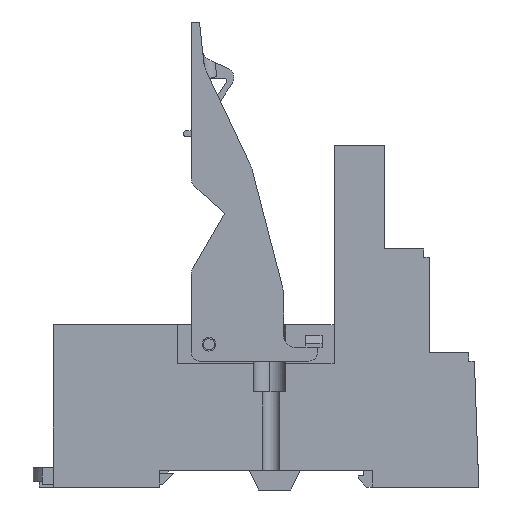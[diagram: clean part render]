
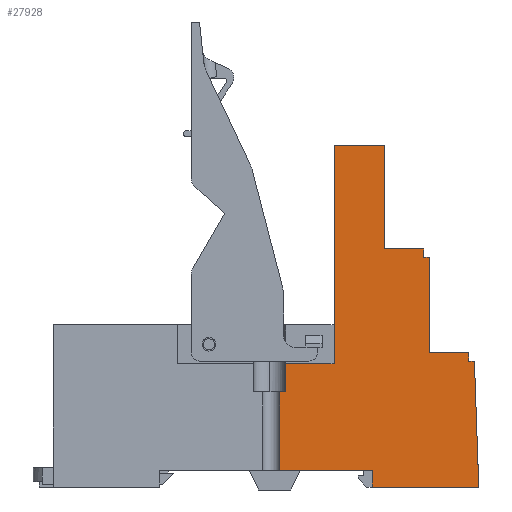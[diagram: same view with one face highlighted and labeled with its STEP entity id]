
A CAD part, left-side view. The second image highlights one B-rep face of the part: STEP entity #27928.
In plain terms, the highlighted planar face has unit normal (-1, 0, 0).
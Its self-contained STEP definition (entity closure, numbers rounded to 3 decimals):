
#111 = DIRECTION ( 'NONE',  ( 0., 0., -1. ) ) ;
#308 = VECTOR ( 'NONE', #12467, 1000. ) ;
#377 = CARTESIAN_POINT ( 'NONE',  ( 0., -37.628, 28.748 ) ) ;
#425 = ORIENTED_EDGE ( 'NONE', *, *, #5921, .T. ) ;
#791 = CARTESIAN_POINT ( 'NONE',  ( 0., -12.628, 28.263 ) ) ;
#1133 = LINE ( 'NONE', #26464, #8310 ) ;
#1191 = VERTEX_POINT ( 'NONE', #26217 ) ;
#1494 = DIRECTION ( 'NONE',  ( 0., 0., 1. ) ) ;
#3058 = VECTOR ( 'NONE', #26791, 1000. ) ;
#3239 = LINE ( 'NONE', #18160, #8865 ) ;
#3707 = EDGE_CURVE ( 'NONE', #25130, #20041, #22907, .T. ) ;
#3787 = VERTEX_POINT ( 'NONE', #30206 ) ;
#3799 = CARTESIAN_POINT ( 'NONE',  ( 0., -28.628, 47.263 ) ) ;
#4240 = VECTOR ( 'NONE', #9755, 1000. ) ;
#4425 = CARTESIAN_POINT ( 'NONE',  ( 0., -28.628, 48.763 ) ) ;
#4591 = CARTESIAN_POINT ( 'NONE',  ( 0., -28.628, 47.263 ) ) ;
#4954 = DIRECTION ( 'NONE',  ( 0., -1., 0. ) ) ;
#5269 = ORIENTED_EDGE ( 'NONE', *, *, #11830, .F. ) ;
#5921 = EDGE_CURVE ( 'NONE', #22959, #26194, #7555, .T. ) ;
#6106 = CARTESIAN_POINT ( 'NONE',  ( 0., -21.628, 67.263 ) ) ;
#6185 = DIRECTION ( 'NONE',  ( 0., 1., 0. ) ) ;
#6391 = CARTESIAN_POINT ( 'NONE',  ( 0., -36.627, 28.748 ) ) ;
#6847 = LINE ( 'NONE', #11659, #11981 ) ;
#7257 = VECTOR ( 'NONE', #12242, 1000. ) ;
#7362 = ORIENTED_EDGE ( 'NONE', *, *, #7981, .F. ) ;
#7555 = LINE ( 'NONE', #27769, #31303 ) ;
#7585 = EDGE_LOOP ( 'NONE', ( #22304, #7362, #27540, #425, #20330, #21335, #12348, #28760, #32733, #21340, #13334, #5269, #21661, #20731, #22943, #17628, #28000, #12525 ) ) ;
#7722 = CARTESIAN_POINT ( 'NONE',  ( 0., -19.455, 6.263 ) ) ;
#7894 = VECTOR ( 'NONE', #20950, 1000. ) ;
#7981 = EDGE_CURVE ( 'NONE', #3787, #26322, #30922, .T. ) ;
#8223 = VERTEX_POINT ( 'NONE', #28229 ) ;
#8310 = VECTOR ( 'NONE', #13885, 1000. ) ;
#8620 = CARTESIAN_POINT ( 'NONE',  ( 0., -37.68, 28.748 ) ) ;
#8667 = CARTESIAN_POINT ( 'NONE',  ( 0., -21.628, 48.763 ) ) ;
#8734 = PLANE ( 'NONE',  #12921 ) ;
#8865 = VECTOR ( 'NONE', #10217, 1000. ) ;
#8998 = VERTEX_POINT ( 'NONE', #23489 ) ;
#9158 = DIRECTION ( 'NONE',  ( 0., -0.034, -0.999 ) ) ;
#9423 = CARTESIAN_POINT ( 'NONE',  ( 0., -29.628, 30.248 ) ) ;
#9545 = CARTESIAN_POINT ( 'NONE',  ( 0., -12.628, 67.263 ) ) ;
#9586 = CARTESIAN_POINT ( 'NONE',  ( 0., -29.628, 47.263 ) ) ;
#9755 = DIRECTION ( 'NONE',  ( 0., 0., 1. ) ) ;
#9852 = VECTOR ( 'NONE', #31564, 1000. ) ;
#10217 = DIRECTION ( 'NONE',  ( 0., -1., 0. ) ) ;
#10850 = LINE ( 'NONE', #20942, #20172 ) ;
#10893 = VECTOR ( 'NONE', #29435, 1000. ) ;
#11173 = VERTEX_POINT ( 'NONE', #4425 ) ;
#11315 = LINE ( 'NONE', #21406, #12755 ) ;
#11394 = DIRECTION ( 'NONE',  ( 1., 0., 0. ) ) ;
#11659 = CARTESIAN_POINT ( 'NONE',  ( 0., -38.455, 6.263 ) ) ;
#11830 = EDGE_CURVE ( 'NONE', #8998, #1191, #23731, .T. ) ;
#11901 = EDGE_CURVE ( 'NONE', #26322, #11977, #32300, .T. ) ;
#11923 = EDGE_CURVE ( 'NONE', #13199, #8998, #12746, .T. ) ;
#11977 = VERTEX_POINT ( 'NONE', #791 ) ;
#11981 = VECTOR ( 'NONE', #9158, 1000. ) ;
#12061 = CARTESIAN_POINT ( 'NONE',  ( 0., -19.455, 9.263 ) ) ;
#12220 = EDGE_CURVE ( 'NONE', #31234, #21728, #1133, .T. ) ;
#12242 = DIRECTION ( 'NONE',  ( 0., -1., 0. ) ) ;
#12247 = LINE ( 'NONE', #29823, #4240 ) ;
#12253 = CARTESIAN_POINT ( 'NONE',  ( 0., -21.628, 48.763 ) ) ;
#12294 = EDGE_CURVE ( 'NONE', #1191, #32002, #26626, .T. ) ;
#12348 = ORIENTED_EDGE ( 'NONE', *, *, #26317, .F. ) ;
#12457 = EDGE_CURVE ( 'NONE', #22959, #3787, #3239, .T. ) ;
#12467 = DIRECTION ( 'NONE',  ( 0., -1., 0. ) ) ;
#12525 = ORIENTED_EDGE ( 'NONE', *, *, #18256, .F. ) ;
#12746 = LINE ( 'NONE', #9586, #7257 ) ;
#12755 = VECTOR ( 'NONE', #6185, 1000. ) ;
#12921 = AXIS2_PLACEMENT_3D ( 'NONE', #13879, #11394, #28967 ) ;
#13199 = VERTEX_POINT ( 'NONE', #4591 ) ;
#13334 = ORIENTED_EDGE ( 'NONE', *, *, #12294, .F. ) ;
#13339 = VECTOR ( 'NONE', #30701, 1000. ) ;
#13499 = CARTESIAN_POINT ( 'NONE',  ( 0., -3.999, 23.263 ) ) ;
#13747 = DIRECTION ( 'NONE',  ( 0., 1., 0. ) ) ;
#13879 = CARTESIAN_POINT ( 'NONE',  ( 0., 0., 0. ) ) ;
#13885 = DIRECTION ( 'NONE',  ( 0., 0., 1. ) ) ;
#14036 = CARTESIAN_POINT ( 'NONE',  ( 0., -29.628, 30.248 ) ) ;
#15259 = CARTESIAN_POINT ( 'NONE',  ( 0., -36.627, 30.248 ) ) ;
#16027 = FACE_OUTER_BOUND ( 'NONE', #7585, .T. ) ;
#16064 = CARTESIAN_POINT ( 'NONE',  ( 0., -19.455, 6.263 ) ) ;
#16264 = VERTEX_POINT ( 'NONE', #12253 ) ;
#17377 = CARTESIAN_POINT ( 'NONE',  ( 0., 15.372, 28.263 ) ) ;
#17628 = ORIENTED_EDGE ( 'NONE', *, *, #22201, .F. ) ;
#18160 = CARTESIAN_POINT ( 'NONE',  ( 0., 1.701, 23.263 ) ) ;
#18256 = EDGE_CURVE ( 'NONE', #11977, #31162, #12247, .T. ) ;
#18595 = DIRECTION ( 'NONE',  ( 0., 0., -1. ) ) ;
#19303 = LINE ( 'NONE', #6391, #10893 ) ;
#19895 = CARTESIAN_POINT ( 'NONE',  ( 0., -2.955, 9.263 ) ) ;
#20041 = VERTEX_POINT ( 'NONE', #8620 ) ;
#20172 = VECTOR ( 'NONE', #31078, 1000. ) ;
#20330 = ORIENTED_EDGE ( 'NONE', *, *, #29717, .F. ) ;
#20568 = VERTEX_POINT ( 'NONE', #6106 ) ;
#20641 = VECTOR ( 'NONE', #1494, 1000. ) ;
#20731 = ORIENTED_EDGE ( 'NONE', *, *, #28596, .T. ) ;
#20942 = CARTESIAN_POINT ( 'NONE',  ( 0., -21.628, 67.263 ) ) ;
#20950 = DIRECTION ( 'NONE',  ( 0., 0., 1. ) ) ;
#21037 = EDGE_CURVE ( 'NONE', #16264, #11173, #27878, .T. ) ;
#21335 = ORIENTED_EDGE ( 'NONE', *, *, #12220, .F. ) ;
#21340 = ORIENTED_EDGE ( 'NONE', *, *, #21884, .T. ) ;
#21406 = CARTESIAN_POINT ( 'NONE',  ( 0., 18.46, 9.263 ) ) ;
#21423 = LINE ( 'NONE', #8667, #9852 ) ;
#21537 = VECTOR ( 'NONE', #4954, 1000. ) ;
#21661 = ORIENTED_EDGE ( 'NONE', *, *, #11923, .F. ) ;
#21728 = VERTEX_POINT ( 'NONE', #12061 ) ;
#21786 = CARTESIAN_POINT ( 'NONE',  ( 0., -2.955, 23.263 ) ) ;
#21884 = EDGE_CURVE ( 'NONE', #25130, #32002, #19303, .T. ) ;
#22201 = EDGE_CURVE ( 'NONE', #20568, #16264, #21423, .T. ) ;
#22304 = ORIENTED_EDGE ( 'NONE', *, *, #11901, .F. ) ;
#22578 = CARTESIAN_POINT ( 'NONE',  ( 0., -29.628, 48.763 ) ) ;
#22907 = LINE ( 'NONE', #377, #13339 ) ;
#22943 = ORIENTED_EDGE ( 'NONE', *, *, #21037, .F. ) ;
#22959 = VERTEX_POINT ( 'NONE', #21786 ) ;
#23489 = CARTESIAN_POINT ( 'NONE',  ( 0., -29.628, 47.263 ) ) ;
#23651 = VECTOR ( 'NONE', #18595, 1000. ) ;
#23731 = LINE ( 'NONE', #9423, #23651 ) ;
#24184 = LINE ( 'NONE', #3799, #20641 ) ;
#24668 = CARTESIAN_POINT ( 'NONE',  ( 0., -3.999, 28.263 ) ) ;
#25130 = VERTEX_POINT ( 'NONE', #31762 ) ;
#25181 = VECTOR ( 'NONE', #13747, 1000. ) ;
#25692 = LINE ( 'NONE', #16064, #25181 ) ;
#26194 = VERTEX_POINT ( 'NONE', #19895 ) ;
#26217 = CARTESIAN_POINT ( 'NONE',  ( 0., -29.628, 30.248 ) ) ;
#26317 = EDGE_CURVE ( 'NONE', #8223, #31234, #25692, .T. ) ;
#26322 = VERTEX_POINT ( 'NONE', #24668 ) ;
#26464 = CARTESIAN_POINT ( 'NONE',  ( 0., -19.455, 9.263 ) ) ;
#26626 = LINE ( 'NONE', #14036, #3058 ) ;
#26791 = DIRECTION ( 'NONE',  ( 0., -1., 0. ) ) ;
#26890 = EDGE_CURVE ( 'NONE', #20041, #8223, #6847, .T. ) ;
#27540 = ORIENTED_EDGE ( 'NONE', *, *, #12457, .F. ) ;
#27769 = CARTESIAN_POINT ( 'NONE',  ( 0., -2.955, 23.263 ) ) ;
#27878 = LINE ( 'NONE', #22578, #308 ) ;
#27928 = ADVANCED_FACE ( 'NONE', ( #16027 ), #8734, .F. ) ;
#28000 = ORIENTED_EDGE ( 'NONE', *, *, #30347, .F. ) ;
#28229 = CARTESIAN_POINT ( 'NONE',  ( 0., -38.455, 6.263 ) ) ;
#28596 = EDGE_CURVE ( 'NONE', #13199, #11173, #24184, .T. ) ;
#28760 = ORIENTED_EDGE ( 'NONE', *, *, #26890, .F. ) ;
#28967 = DIRECTION ( 'NONE',  ( 0., 0., -1. ) ) ;
#29435 = DIRECTION ( 'NONE',  ( 0., 0., 1. ) ) ;
#29717 = EDGE_CURVE ( 'NONE', #21728, #26194, #11315, .T. ) ;
#29823 = CARTESIAN_POINT ( 'NONE',  ( 0., -12.628, 67.263 ) ) ;
#30206 = CARTESIAN_POINT ( 'NONE',  ( 0., -3.999, 23.263 ) ) ;
#30347 = EDGE_CURVE ( 'NONE', #31162, #20568, #10850, .T. ) ;
#30701 = DIRECTION ( 'NONE',  ( 0., -1., 0. ) ) ;
#30922 = LINE ( 'NONE', #13499, #7894 ) ;
#31078 = DIRECTION ( 'NONE',  ( 0., -1., 0. ) ) ;
#31162 = VERTEX_POINT ( 'NONE', #9545 ) ;
#31234 = VERTEX_POINT ( 'NONE', #7722 ) ;
#31303 = VECTOR ( 'NONE', #111, 1000. ) ;
#31564 = DIRECTION ( 'NONE',  ( 0., 0., -1. ) ) ;
#31762 = CARTESIAN_POINT ( 'NONE',  ( 0., -36.627, 28.748 ) ) ;
#32002 = VERTEX_POINT ( 'NONE', #15259 ) ;
#32300 = LINE ( 'NONE', #17377, #21537 ) ;
#32733 = ORIENTED_EDGE ( 'NONE', *, *, #3707, .F. ) ;
